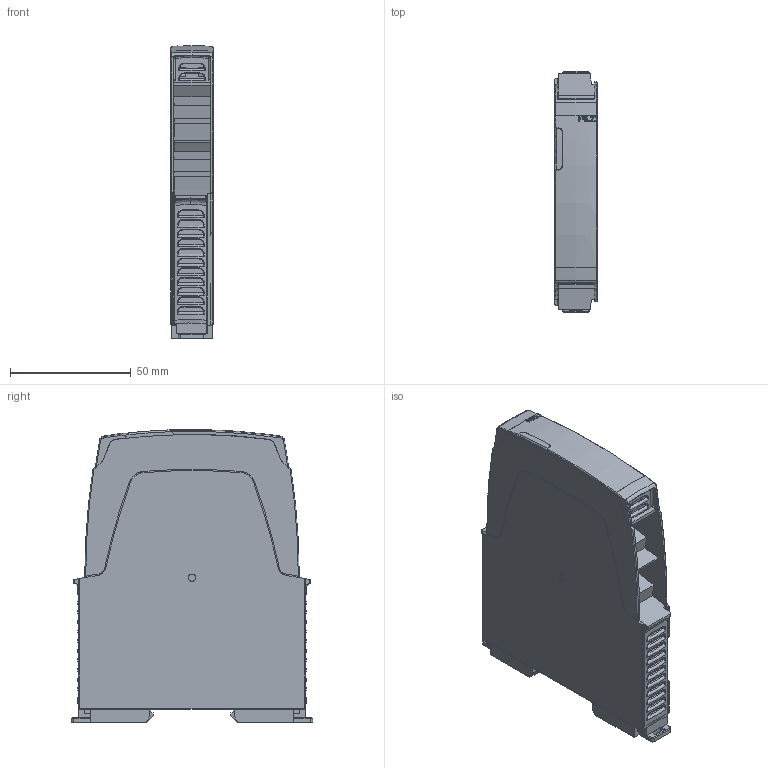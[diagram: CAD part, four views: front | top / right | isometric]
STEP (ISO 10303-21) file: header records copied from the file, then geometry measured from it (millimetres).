
FILE_DESCRIPTION((''),'2;1');
FILE_NAME('2030765','2021-04-22T10:51:04',('l.merz'),(''),'CREO PARAMETRIC BY PTC INC, 2019292','CREO PARAMETRIC BY PTC INC, 2019292','');
FILE_SCHEMA(('AUTOMOTIVE_DESIGN { 1 0 10303 214 1 1 1 1 }'));
Products named in the file (1): 2030765
Bounding box: 17.5 x 100 x 121.45 mm (x, y, z)
Volume: 160951.8 mm3; surface area: 56385.7 mm2
Topology: 1 solids, 1 shells, 1486 faces, 4116 edges, 2634 vertices
Faces by surface type: plane 957, cylinder 273, bspline 136, extrusion 52, torus 35, sphere 16, cone 15, revolution 2
Entity records: 66259 total; most frequent: CARTESIAN_POINT 17376, ORIENTED_EDGE 8230, DIRECTION 6449, PRESENTATION_STYLE_ASSIGNMENT 4122, STYLED_ITEM 4118, CURVE_STYLE 4117, EDGE_CURVE 4115, VECTOR 2827
